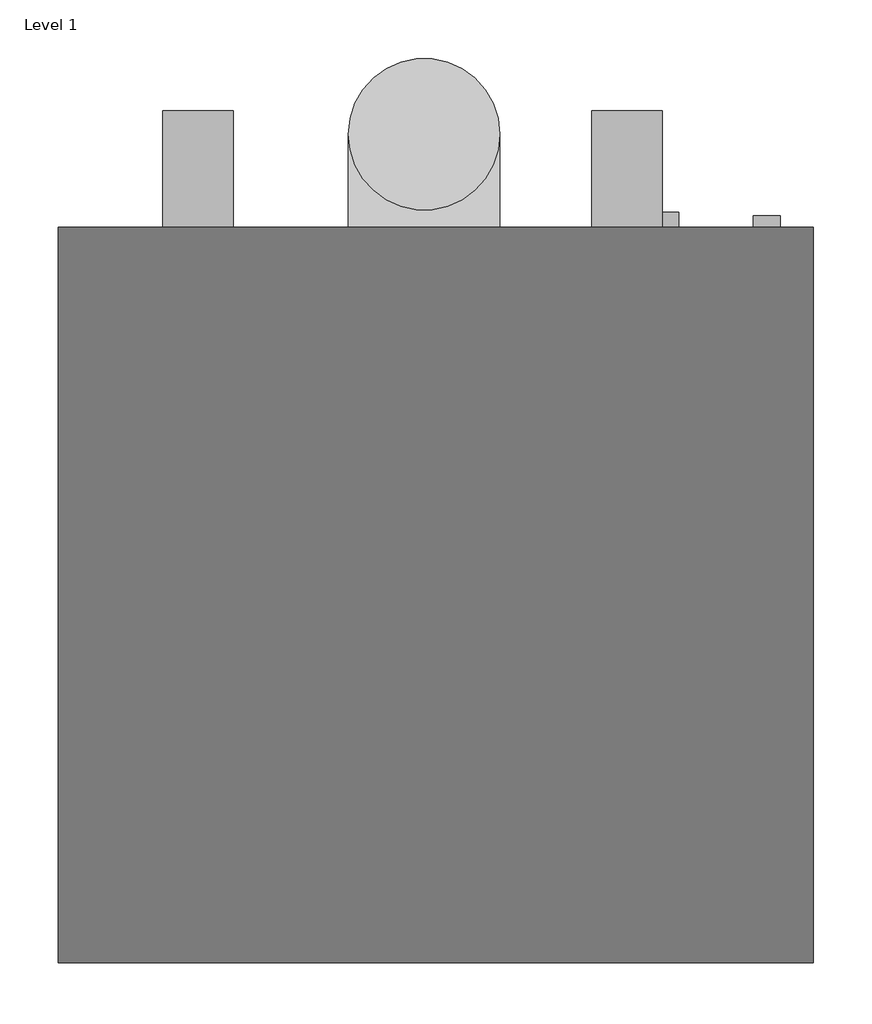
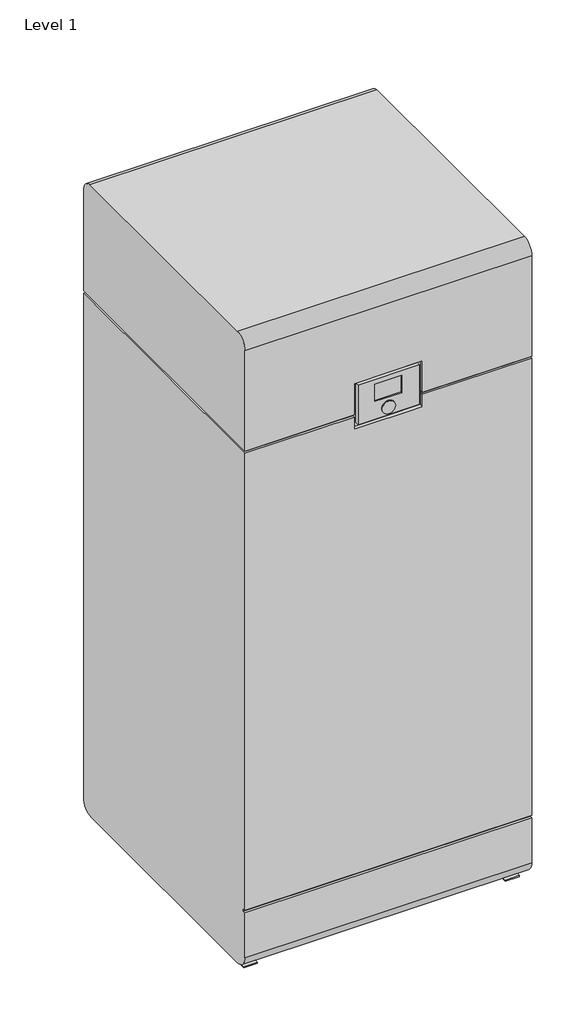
# One storey: 1 unitary equipment element.
"""IFC4 building model written with IfcOpenShell, lengths in millimetres."""

from ifc_helpers import new_model, si_unit, origin, place, context, project, spatial, transform, mapped, element, save
from components import unitary_equipment_f8a501f3

model = new_model("IFC4")

# Units and contexts
model_context = context("Model", 3, world=origin())
ifc_project = project(units=[si_unit("LENGTHUNIT", "METRE", prefix="MILLI")], contexts=[model_context])

# Site, building, storey
site = spatial("IfcSite", under=ifc_project)
building = spatial("IfcBuilding", under=site)
storey = spatial("IfcBuildingStorey", under=building, Name="Level 1", Elevation=0.0)

# Unitary equipment
placement = place(None, origin())
unitary_equipment_shape = unitary_equipment_f8a501f3(model_context)
element("IfcUnitaryEquipment", 1, ObjectType="AIC_Boiler_Nesta_FS_120-250 : Nesta 160 FS", at=placement, inside=storey, context=model_context, shape_type="MappedRepresentation", body=[
    mapped(unitary_equipment_shape, transform((-234.203805, 725.3598009, 0.0), x_axis=(1.0, 0.0, 0.0), y_axis=(0.0, 1.0, 0.0), z_axis=(0.0, 0.0, 1.0))),
])

save(model, "model.ifc")
